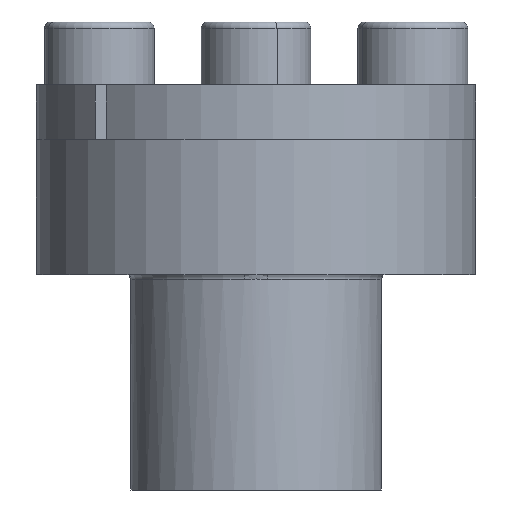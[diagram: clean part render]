
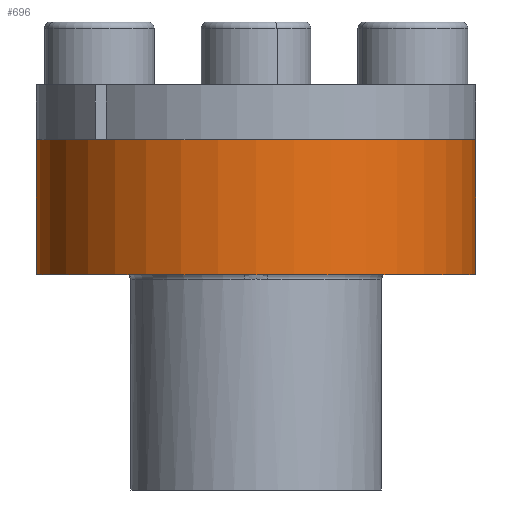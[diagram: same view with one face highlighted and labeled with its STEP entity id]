
A CAD part, front view. The second image highlights one B-rep face of the part: STEP entity #696.
In plain terms, the highlighted cylindrical face has radius 14 mm (diameter 28 mm), a partial arc.
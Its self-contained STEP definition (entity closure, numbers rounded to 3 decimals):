
#696 = ADVANCED_FACE ( 'NONE', ( #1144 ), #5162, .T. ) ;
#927 = ORIENTED_EDGE ( 'NONE', *, *, #4574, .T. ) ;
#1123 = CARTESIAN_POINT ( 'NONE',  ( 14., 0., 2.34 ) ) ;
#1139 = ORIENTED_EDGE ( 'NONE', *, *, #8103, .T. ) ;
#1144 = FACE_OUTER_BOUND ( 'NONE', #4706, .T. ) ;
#1608 = VERTEX_POINT ( 'NONE', #2039 ) ;
#1759 = ORIENTED_EDGE ( 'NONE', *, *, #3668, .F. ) ;
#1771 = DIRECTION ( 'NONE',  ( 0., 0., 1. ) ) ;
#1784 = AXIS2_PLACEMENT_3D ( 'NONE', #5580, #1861, #6195 ) ;
#1861 = DIRECTION ( 'NONE',  ( 0., 0., 1. ) ) ;
#2005 = CARTESIAN_POINT ( 'NONE',  ( -14., 0., -6.26 ) ) ;
#2039 = CARTESIAN_POINT ( 'NONE',  ( -14., 0., 2.34 ) ) ;
#2680 = CIRCLE ( 'NONE', #1784, 14. ) ;
#2752 = AXIS2_PLACEMENT_3D ( 'NONE', #5495, #1771, #6107 ) ;
#3173 = CARTESIAN_POINT ( 'NONE',  ( -14., 0., 2.34 ) ) ;
#3504 = AXIS2_PLACEMENT_3D ( 'NONE', #3522, #5362, #4766 ) ;
#3522 = CARTESIAN_POINT ( 'NONE',  ( 0., 0., 2.34 ) ) ;
#3668 = EDGE_CURVE ( 'NONE', #6133, #4542, #6875, .T. ) ;
#4430 = EDGE_CURVE ( 'NONE', #1608, #6133, #5861, .T. ) ;
#4513 = ORIENTED_EDGE ( 'NONE', *, *, #4430, .F. ) ;
#4542 = VERTEX_POINT ( 'NONE', #6207 ) ;
#4574 = EDGE_CURVE ( 'NONE', #1608, #5792, #7852, .T. ) ;
#4597 = VECTOR ( 'NONE', #5644, 1000. ) ;
#4706 = EDGE_LOOP ( 'NONE', ( #1759, #4513, #927, #1139 ) ) ;
#4766 = DIRECTION ( 'NONE',  ( -1., 0., 0. ) ) ;
#5162 = CYLINDRICAL_SURFACE ( 'NONE', #3504, 14. ) ;
#5362 = DIRECTION ( 'NONE',  ( 0., 0., -1. ) ) ;
#5423 = CARTESIAN_POINT ( 'NONE',  ( 14., 0., 2.34 ) ) ;
#5495 = CARTESIAN_POINT ( 'NONE',  ( 0., 0., 2.34 ) ) ;
#5580 = CARTESIAN_POINT ( 'NONE',  ( 0., 0., -6.26 ) ) ;
#5644 = DIRECTION ( 'NONE',  ( 0., 0., -1. ) ) ;
#5792 = VERTEX_POINT ( 'NONE', #2005 ) ;
#5861 = CIRCLE ( 'NONE', #2752, 14. ) ;
#6041 = DIRECTION ( 'NONE',  ( 0., 0., -1. ) ) ;
#6107 = DIRECTION ( 'NONE',  ( 1., 0., 0. ) ) ;
#6133 = VERTEX_POINT ( 'NONE', #1123 ) ;
#6195 = DIRECTION ( 'NONE',  ( 1., 0., 0. ) ) ;
#6207 = CARTESIAN_POINT ( 'NONE',  ( 14., 0., -6.26 ) ) ;
#6707 = VECTOR ( 'NONE', #6041, 1000. ) ;
#6875 = LINE ( 'NONE', #5423, #6707 ) ;
#7852 = LINE ( 'NONE', #3173, #4597 ) ;
#8103 = EDGE_CURVE ( 'NONE', #5792, #4542, #2680, .T. ) ;
